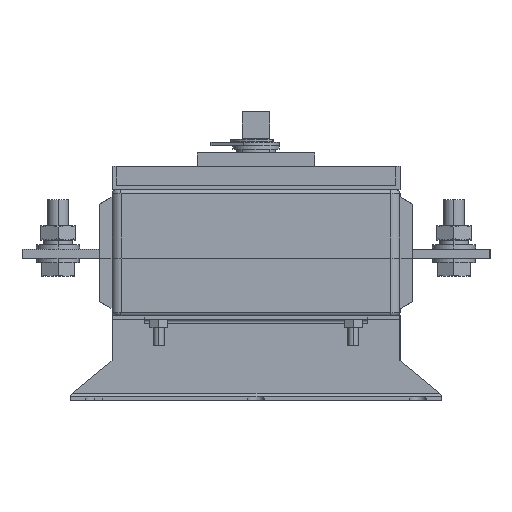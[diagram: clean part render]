
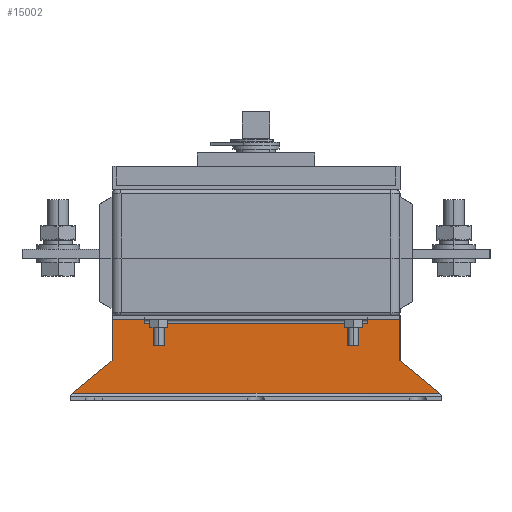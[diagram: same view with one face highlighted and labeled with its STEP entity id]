
A CAD part, left-side view. The second image highlights one B-rep face of the part: STEP entity #15002.
In plain terms, the highlighted planar face has unit normal (-1, 0, 0) as drawn and (0, 0, 1) by its records, which use the part's own axes.
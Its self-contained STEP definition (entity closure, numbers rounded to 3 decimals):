
#14278=DIRECTION('',(-1.,0.,0.));
#14279=VECTOR('',#14278,203.579);
#14280=CARTESIAN_POINT('',(101.789,4.,-8.5));
#14281=LINE('',#14280,#14279);
#14282=DIRECTION('',(1.,0.,0.));
#14283=VECTOR('',#14282,18.);
#14284=CARTESIAN_POINT('',(-80.,45.,-8.5));
#14285=LINE('',#14284,#14283);
#14286=DIRECTION('',(0.,1.,0.));
#14287=VECTOR('',#14286,2.);
#14288=CARTESIAN_POINT('',(-62.,43.,-8.5));
#14289=LINE('',#14288,#14287);
#14290=DIRECTION('',(-1.,0.,0.));
#14291=VECTOR('',#14290,124.);
#14292=CARTESIAN_POINT('',(62.,43.,-8.5));
#14293=LINE('',#14292,#14291);
#14294=DIRECTION('',(0.,1.,0.));
#14295=VECTOR('',#14294,2.);
#14296=CARTESIAN_POINT('',(62.,43.,-8.5));
#14297=LINE('',#14296,#14295);
#14298=DIRECTION('',(1.,0.,0.));
#14299=VECTOR('',#14298,18.);
#14300=CARTESIAN_POINT('',(62.,45.,-8.5));
#14301=LINE('',#14300,#14299);
#14322=DIRECTION('',(-0.771,0.637,0.));
#14323=VECTOR('',#14322,28.263);
#14324=CARTESIAN_POINT('',(101.789,4.,-8.5));
#14325=LINE('',#14324,#14323);
#14356=DIRECTION('',(-0.771,-0.637,0.));
#14357=VECTOR('',#14356,28.263);
#14358=CARTESIAN_POINT('',(-80.,22.,-8.5));
#14359=LINE('',#14358,#14357);
#14368=DIRECTION('',(0.,1.,0.));
#14369=VECTOR('',#14368,23.);
#14370=CARTESIAN_POINT('',(-80.,22.,-8.5));
#14371=LINE('',#14370,#14369);
#14600=DIRECTION('',(0.,1.,0.));
#14601=VECTOR('',#14600,23.);
#14602=CARTESIAN_POINT('',(80.,22.,-8.5));
#14603=LINE('',#14602,#14601);
#14629=CARTESIAN_POINT('',(80.,45.,-8.5));
#14631=VERTEX_POINT('',#14629);
#14633=CARTESIAN_POINT('',(-80.,45.,-8.5));
#14635=VERTEX_POINT('',#14633);
#14640=CARTESIAN_POINT('',(80.,22.,-8.5));
#14641=VERTEX_POINT('',#14640);
#14642=CARTESIAN_POINT('',(-80.,22.,-8.5));
#14643=VERTEX_POINT('',#14642);
#14692=CARTESIAN_POINT('',(101.789,4.,-8.5));
#14693=CARTESIAN_POINT('',(-101.789,4.,-8.5));
#14694=VERTEX_POINT('',#14692);
#14695=VERTEX_POINT('',#14693);
#14704=CARTESIAN_POINT('',(62.,43.,-8.5));
#14705=CARTESIAN_POINT('',(-62.,43.,-8.5));
#14706=VERTEX_POINT('',#14704);
#14707=VERTEX_POINT('',#14705);
#14708=CARTESIAN_POINT('',(62.,45.,-8.5));
#14709=VERTEX_POINT('',#14708);
#14710=CARTESIAN_POINT('',(-62.,45.,-8.5));
#14711=VERTEX_POINT('',#14710);
#14980=CARTESIAN_POINT('',(-103.,2.,-8.5));
#14981=DIRECTION('',(0.,0.,-1.));
#14982=DIRECTION('',(0.,1.,0.));
#14983=AXIS2_PLACEMENT_3D('',#14980,#14981,#14982);
#14984=PLANE('',#14983);
#14986=ORIENTED_EDGE('',*,*,#14985,.T.);
#14988=ORIENTED_EDGE('',*,*,#14987,.F.);
#14990=ORIENTED_EDGE('',*,*,#14989,.T.);
#14991=ORIENTED_EDGE('',*,*,#14823,.T.);
#14992=ORIENTED_EDGE('',*,*,#14858,.F.);
#14993=ORIENTED_EDGE('',*,*,#14974,.F.);
#14994=ORIENTED_EDGE('',*,*,#14802,.T.);
#14995=ORIENTED_EDGE('',*,*,#14838,.T.);
#14997=ORIENTED_EDGE('',*,*,#14996,.F.);
#14999=ORIENTED_EDGE('',*,*,#14998,.F.);
#15000=EDGE_LOOP('',(#14986,#14988,#14990,#14991,#14992,#14993,#14994,#14995,
#14997,#14999));
#15001=FACE_OUTER_BOUND('',#15000,.F.);
#15002=ADVANCED_FACE('',(#15001),#14984,.F.);
#14802=EDGE_CURVE('',#14706,#14709,#14297,.T.);
#14823=EDGE_CURVE('',#14635,#14711,#14285,.T.);
#14838=EDGE_CURVE('',#14709,#14631,#14301,.T.);
#14858=EDGE_CURVE('',#14707,#14711,#14289,.T.);
#14974=EDGE_CURVE('',#14706,#14707,#14293,.T.);
#14985=EDGE_CURVE('',#14694,#14695,#14281,.T.);
#14987=EDGE_CURVE('',#14643,#14695,#14359,.T.);
#14989=EDGE_CURVE('',#14643,#14635,#14371,.T.);
#14996=EDGE_CURVE('',#14641,#14631,#14603,.T.);
#14998=EDGE_CURVE('',#14694,#14641,#14325,.T.);
